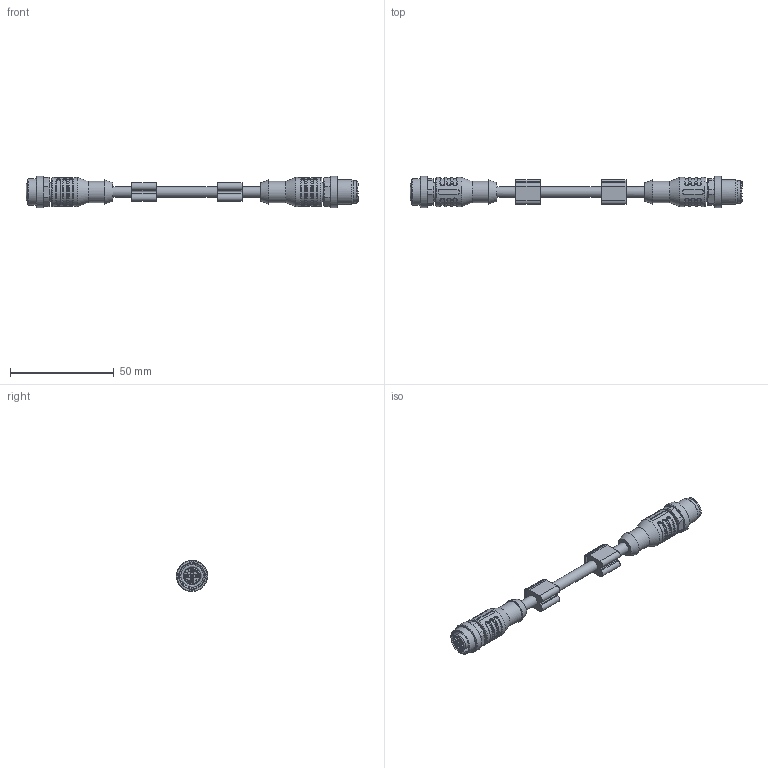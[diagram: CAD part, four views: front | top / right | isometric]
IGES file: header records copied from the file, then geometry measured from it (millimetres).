
Global section: file name: 153-13639_L4_L4-xM-PUR; native system: Autodesk Inventor 2018; preprocessor: unknown; date: 20191105.085952; units: millimetre
Bounding box: 160 x 15 x 14.98 mm (x, y, z)
Volume: 12982.2 mm3; surface area: 7747.9 mm2
Topology: 1 solids, 1 shells, 578 faces, 1474 edges, 950 vertices
Faces by surface type: bspline 578
